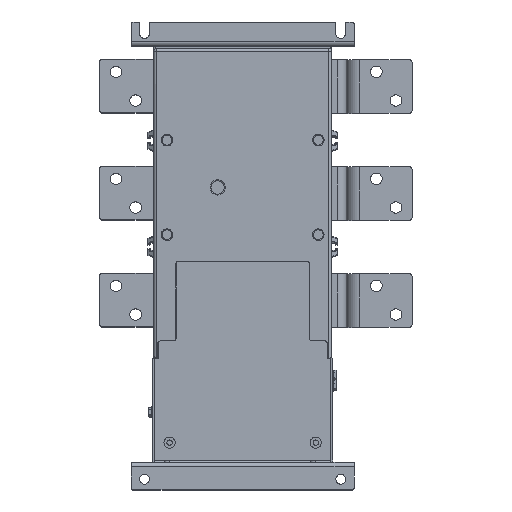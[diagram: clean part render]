
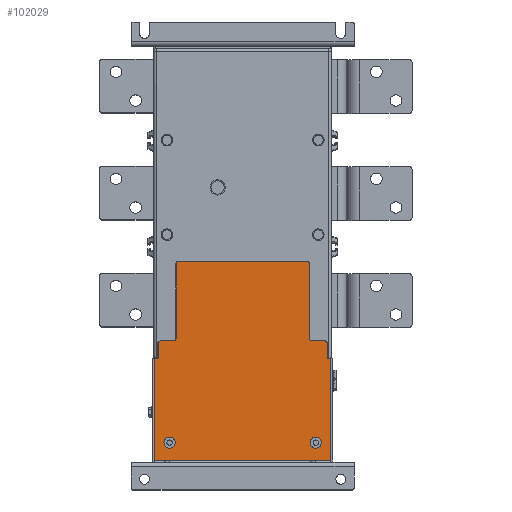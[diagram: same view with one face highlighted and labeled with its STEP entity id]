
A CAD part, top view. The second image highlights one B-rep face of the part: STEP entity #102029.
In plain terms, the highlighted planar face has unit normal (0, 0, 1).
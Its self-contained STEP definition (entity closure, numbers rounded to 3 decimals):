
#98984=DIRECTION('',(0.,-1.,0.));
#98985=VECTOR('',#98984,83.32);
#98986=CARTESIAN_POINT('',(486.803,-164.835,
6.));
#98987=LINE('',#98986,#98985);
#99065=DIRECTION('',(0.,1.,0.));
#99066=VECTOR('',#99065,83.32);
#99067=CARTESIAN_POINT('',(635.992,-248.156,
6.));
#99068=LINE('',#99067,#99066);
#99072=CARTESIAN_POINT('',(489.803,-164.835,
6.));
#99073=DIRECTION('',(0.,0.,-1.));
#99074=DIRECTION('',(-1.,0.,0.));
#99075=AXIS2_PLACEMENT_3D('',#99072,#99073,#99074);
#99080=CARTESIAN_POINT('',(632.992,-164.835,
6.));
#99081=DIRECTION('',(0.,0.,-1.));
#99082=DIRECTION('',(0.,1.,0.));
#99083=AXIS2_PLACEMENT_3D('',#99080,#99081,#99082);
#99088=CARTESIAN_POINT('',(638.992,-248.156,
6.));
#99089=DIRECTION('',(0.,0.,1.));
#99090=DIRECTION('',(-1.,0.,0.));
#99091=AXIS2_PLACEMENT_3D('',#99088,#99089,#99090);
#99096=CARTESIAN_POINT('',(653.498,-253.956,
6.));
#99097=DIRECTION('',(0.,0.,-1.));
#99098=DIRECTION('',(0.,1.,0.));
#99099=AXIS2_PLACEMENT_3D('',#99096,#99097,#99098);
#99104=CARTESIAN_POINT('',(659.148,-384.249,
6.));
#99105=DIRECTION('',(0.,0.,-1.));
#99106=DIRECTION('',(1.,0.,0.));
#99107=AXIS2_PLACEMENT_3D('',#99104,#99105,#99106);
#99112=CARTESIAN_POINT('',(463.648,-384.249,
6.));
#99113=DIRECTION('',(0.,0.,-1.));
#99114=DIRECTION('',(0.,-1.,0.));
#99115=AXIS2_PLACEMENT_3D('',#99112,#99113,#99114);
#99120=CARTESIAN_POINT('',(469.297,-253.956,
6.));
#99121=DIRECTION('',(0.,0.,-1.));
#99122=DIRECTION('',(-1.,0.,0.));
#99123=AXIS2_PLACEMENT_3D('',#99120,#99121,#99122);
#99128=CARTESIAN_POINT('',(483.803,-248.156,
6.));
#99129=DIRECTION('',(0.,0.,1.));
#99130=DIRECTION('',(0.,-1.,0.));
#99131=AXIS2_PLACEMENT_3D('',#99128,#99129,#99130);
#99136=CARTESIAN_POINT('',(479.398,-365.249,
6.));
#99137=DIRECTION('',(0.,0.,1.));
#99138=DIRECTION('',(1.,0.,0.));
#99139=AXIS2_PLACEMENT_3D('',#99136,#99137,#99138);
#99144=CARTESIAN_POINT('',(479.398,-365.249,
6.));
#99145=DIRECTION('',(0.,0.,1.));
#99146=DIRECTION('',(-1.,0.,0.));
#99147=AXIS2_PLACEMENT_3D('',#99144,#99145,#99146);
#99152=CARTESIAN_POINT('',(643.398,-365.249,
6.));
#99153=DIRECTION('',(0.,0.,1.));
#99154=DIRECTION('',(1.,0.,0.));
#99155=AXIS2_PLACEMENT_3D('',#99152,#99153,#99154);
#99160=CARTESIAN_POINT('',(643.398,-365.249,
6.));
#99161=DIRECTION('',(0.,0.,1.));
#99162=DIRECTION('',(-1.,0.,0.));
#99163=AXIS2_PLACEMENT_3D('',#99160,#99161,#99162);
#99182=DIRECTION('',(-1.,0.,0.));
#99183=VECTOR('',#99182,143.189);
#99184=CARTESIAN_POINT('',(632.992,-161.835,
6.));
#99185=LINE('',#99184,#99183);
#99231=DIRECTION('',(-1.,0.,0.));
#99232=VECTOR('',#99231,14.506);
#99233=CARTESIAN_POINT('',(653.498,-251.156,
6.));
#99234=LINE('',#99233,#99232);
#99252=DIRECTION('',(0.,1.,0.));
#99253=VECTOR('',#99252,17.193);
#99254=CARTESIAN_POINT('',(656.298,-271.149,
6.));
#99255=LINE('',#99254,#99253);
#99259=DIRECTION('',(-1.,0.,0.));
#99260=VECTOR('',#99259,3.849);
#99261=CARTESIAN_POINT('',(660.148,-271.149,
6.));
#99262=LINE('',#99261,#99260);
#99294=DIRECTION('',(0.,1.,0.));
#99295=VECTOR('',#99294,113.1);
#99296=CARTESIAN_POINT('',(660.148,-384.249,
6.));
#99297=LINE('',#99296,#99295);
#99608=DIRECTION('',(0.,-1.,0.));
#99609=VECTOR('',#99608,113.1);
#99610=CARTESIAN_POINT('',(462.648,-271.149,
6.));
#99611=LINE('',#99610,#99609);
#99706=DIRECTION('',(-1.,0.,0.));
#99707=VECTOR('',#99706,3.849);
#99708=CARTESIAN_POINT('',(466.497,-271.149,
6.));
#99709=LINE('',#99708,#99707);
#99727=DIRECTION('',(0.,-1.,0.));
#99728=VECTOR('',#99727,17.193);
#99729=CARTESIAN_POINT('',(466.497,-253.956,
6.));
#99730=LINE('',#99729,#99728);
#99762=DIRECTION('',(-1.,0.,0.));
#99763=VECTOR('',#99762,14.506);
#99764=CARTESIAN_POINT('',(483.803,-251.156,
6.));
#99765=LINE('',#99764,#99763);
#99783=DIRECTION('',(1.,0.,0.));
#99784=VECTOR('',#99783,195.5);
#99785=CARTESIAN_POINT('',(463.648,-385.249,
6.));
#99786=LINE('',#99785,#99784);
#100948=CARTESIAN_POINT('',(486.803,-248.156,
6.));
#100949=VERTEX_POINT('',#100948);
#100950=CARTESIAN_POINT('',(483.803,-251.156,
6.));
#100951=VERTEX_POINT('',#100950);
#100956=CARTESIAN_POINT('',(486.803,-164.835,
6.));
#100957=VERTEX_POINT('',#100956);
#100970=CARTESIAN_POINT('',(635.992,-248.156,
6.));
#100971=CARTESIAN_POINT('',(635.992,-164.835,
6.));
#100972=VERTEX_POINT('',#100970);
#100973=VERTEX_POINT('',#100971);
#100974=CARTESIAN_POINT('',(489.803,-161.835,
6.));
#100975=VERTEX_POINT('',#100974);
#100976=CARTESIAN_POINT('',(632.992,-161.835,
6.));
#100977=VERTEX_POINT('',#100976);
#100978=CARTESIAN_POINT('',(638.992,-251.156,
6.));
#100979=VERTEX_POINT('',#100978);
#100980=CARTESIAN_POINT('',(653.498,-251.156,
6.));
#100981=VERTEX_POINT('',#100980);
#100982=CARTESIAN_POINT('',(656.298,-253.956,
6.));
#100983=VERTEX_POINT('',#100982);
#100984=CARTESIAN_POINT('',(656.298,-271.149,
6.));
#100985=VERTEX_POINT('',#100984);
#100986=CARTESIAN_POINT('',(660.148,-271.149,
6.));
#100987=VERTEX_POINT('',#100986);
#100988=CARTESIAN_POINT('',(660.148,-384.249,
6.));
#100989=VERTEX_POINT('',#100988);
#100990=CARTESIAN_POINT('',(659.148,-385.249,
6.));
#100991=VERTEX_POINT('',#100990);
#100992=CARTESIAN_POINT('',(463.648,-385.249,
6.));
#100993=VERTEX_POINT('',#100992);
#100994=CARTESIAN_POINT('',(462.648,-384.249,
6.));
#100995=VERTEX_POINT('',#100994);
#100996=CARTESIAN_POINT('',(462.648,-271.149,
6.));
#100997=VERTEX_POINT('',#100996);
#100998=CARTESIAN_POINT('',(466.497,-271.149,
6.));
#100999=VERTEX_POINT('',#100998);
#101000=CARTESIAN_POINT('',(466.497,-253.956,
6.));
#101001=VERTEX_POINT('',#101000);
#101002=CARTESIAN_POINT('',(469.297,-251.156,
6.));
#101003=VERTEX_POINT('',#101002);
#101004=CARTESIAN_POINT('',(485.648,-365.249,
6.));
#101005=CARTESIAN_POINT('',(473.148,-365.249,
6.));
#101006=VERTEX_POINT('',#101004);
#101007=VERTEX_POINT('',#101005);
#101008=CARTESIAN_POINT('',(649.648,-365.249,
6.));
#101009=CARTESIAN_POINT('',(637.148,-365.249,
6.));
#101010=VERTEX_POINT('',#101008);
#101011=VERTEX_POINT('',#101009);
#101973=CARTESIAN_POINT('',(458.698,-156.497,
6.));
#101974=DIRECTION('',(0.,0.,-1.));
#101975=DIRECTION('',(-1.,0.,0.));
#101976=AXIS2_PLACEMENT_3D('',#101973,#101974,#101975);
#101977=PLANE('',#101976);
#101978=ORIENTED_EDGE('',*,*,#101888,.F.);
#101980=ORIENTED_EDGE('',*,*,#101979,.T.);
#101982=ORIENTED_EDGE('',*,*,#101981,.F.);
#101984=ORIENTED_EDGE('',*,*,#101983,.T.);
#101985=ORIENTED_EDGE('',*,*,#101961,.F.);
#101987=ORIENTED_EDGE('',*,*,#101986,.T.);
#101989=ORIENTED_EDGE('',*,*,#101988,.F.);
#101991=ORIENTED_EDGE('',*,*,#101990,.T.);
#101993=ORIENTED_EDGE('',*,*,#101992,.F.);
#101995=ORIENTED_EDGE('',*,*,#101994,.F.);
#101997=ORIENTED_EDGE('',*,*,#101996,.F.);
#101999=ORIENTED_EDGE('',*,*,#101998,.T.);
#102001=ORIENTED_EDGE('',*,*,#102000,.F.);
#102003=ORIENTED_EDGE('',*,*,#102002,.T.);
#102005=ORIENTED_EDGE('',*,*,#102004,.F.);
#102007=ORIENTED_EDGE('',*,*,#102006,.F.);
#102009=ORIENTED_EDGE('',*,*,#102008,.F.);
#102011=ORIENTED_EDGE('',*,*,#102010,.T.);
#102013=ORIENTED_EDGE('',*,*,#102012,.F.);
#102014=ORIENTED_EDGE('',*,*,#101868,.T.);
#102015=EDGE_LOOP('',(#101978,#101980,#101982,#101984,#101985,#101987,#101989,
#101991,#101993,#101995,#101997,#101999,#102001,#102003,#102005,#102007,#102009,
#102011,#102013,#102014));
#102016=FACE_OUTER_BOUND('',#102015,.F.);
#102018=ORIENTED_EDGE('',*,*,#102017,.T.);
#102020=ORIENTED_EDGE('',*,*,#102019,.T.);
#102021=EDGE_LOOP('',(#102018,#102020));
#102022=FACE_BOUND('',#102021,.F.);
#102024=ORIENTED_EDGE('',*,*,#102023,.T.);
#102026=ORIENTED_EDGE('',*,*,#102025,.T.);
#102027=EDGE_LOOP('',(#102024,#102026));
#102028=FACE_BOUND('',#102027,.F.);
#99076=CIRCLE('',#99075,3.);
#99084=CIRCLE('',#99083,3.);
#99092=CIRCLE('',#99091,3.);
#99100=CIRCLE('',#99099,2.8);
#99108=CIRCLE('',#99107,1.);
#99116=CIRCLE('',#99115,1.);
#99124=CIRCLE('',#99123,2.8);
#99132=CIRCLE('',#99131,3.);
#99140=CIRCLE('',#99139,6.25);
#99148=CIRCLE('',#99147,6.25);
#99156=CIRCLE('',#99155,6.25);
#99164=CIRCLE('',#99163,6.25);
#101868=EDGE_CURVE('',#100951,#100949,#99132,.T.);
#101888=EDGE_CURVE('',#100957,#100949,#98987,.T.);
#101961=EDGE_CURVE('',#100972,#100973,#99068,.T.);
#101979=EDGE_CURVE('',#100957,#100975,#99076,.T.);
#101981=EDGE_CURVE('',#100977,#100975,#99185,.T.);
#101983=EDGE_CURVE('',#100977,#100973,#99084,.T.);
#101986=EDGE_CURVE('',#100972,#100979,#99092,.T.);
#101988=EDGE_CURVE('',#100981,#100979,#99234,.T.);
#101990=EDGE_CURVE('',#100981,#100983,#99100,.T.);
#101992=EDGE_CURVE('',#100985,#100983,#99255,.T.);
#101994=EDGE_CURVE('',#100987,#100985,#99262,.T.);
#101996=EDGE_CURVE('',#100989,#100987,#99297,.T.);
#101998=EDGE_CURVE('',#100989,#100991,#99108,.T.);
#102000=EDGE_CURVE('',#100993,#100991,#99786,.T.);
#102002=EDGE_CURVE('',#100993,#100995,#99116,.T.);
#102004=EDGE_CURVE('',#100997,#100995,#99611,.T.);
#102006=EDGE_CURVE('',#100999,#100997,#99709,.T.);
#102008=EDGE_CURVE('',#101001,#100999,#99730,.T.);
#102010=EDGE_CURVE('',#101001,#101003,#99124,.T.);
#102012=EDGE_CURVE('',#100951,#101003,#99765,.T.);
#102017=EDGE_CURVE('',#101006,#101007,#99140,.T.);
#102019=EDGE_CURVE('',#101007,#101006,#99148,.T.);
#102023=EDGE_CURVE('',#101010,#101011,#99156,.T.);
#102025=EDGE_CURVE('',#101011,#101010,#99164,.T.);
#102029=ADVANCED_FACE('',(#102016,#102022,#102028),#101977,.F.);
